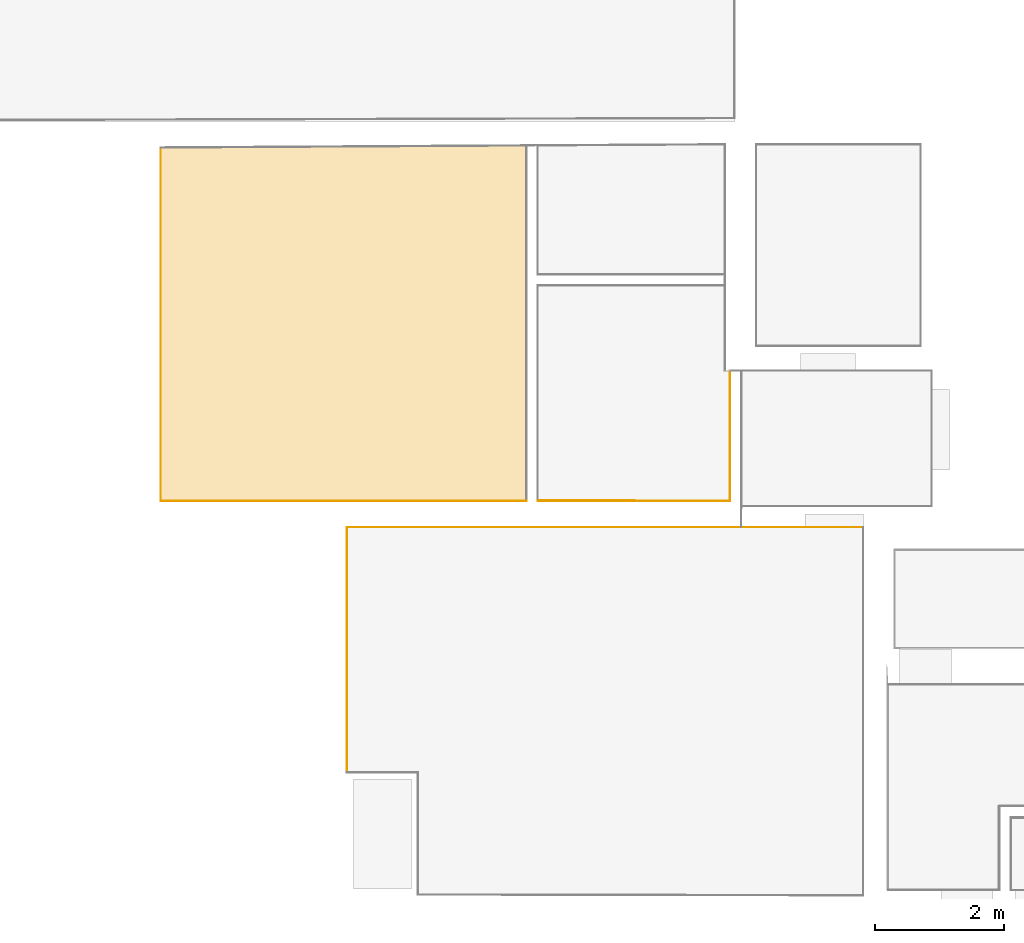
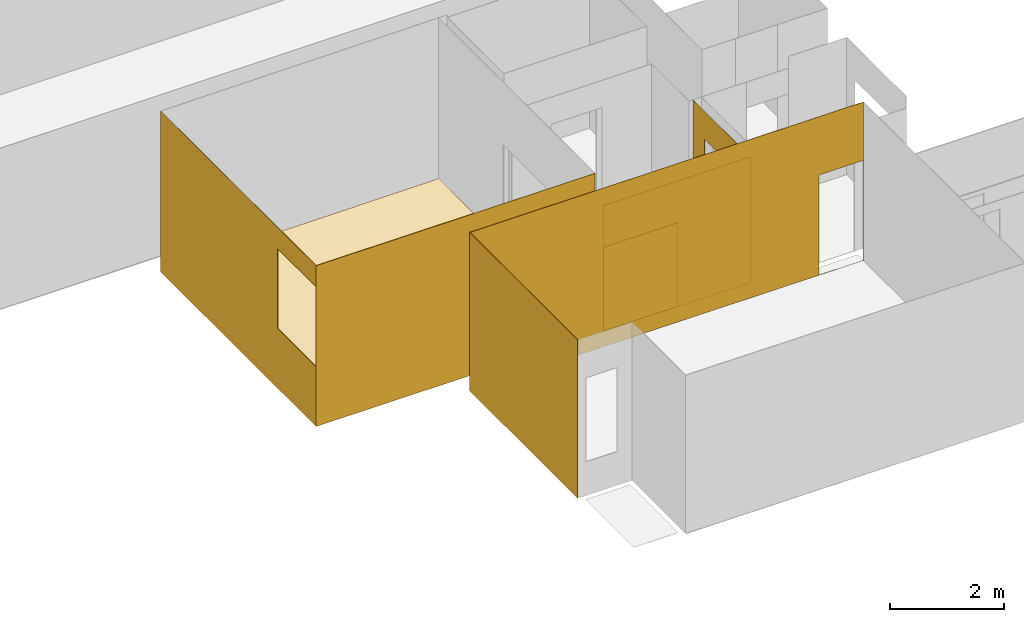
# One storey, part 12 of 33: 8 coverings, 3 openings.
"""IFC2X3 building model written with IfcOpenShell, lengths in millimetres."""

from ifc_helpers import new_model, entity, si_unit, converted_unit, derived_unit, money_unit, direction, frame, origin_with_axes, origin_2d_with_axis, place, context, subcontext, project, spatial, polyline, rectangle, outline, extrude, material, type_object, element, save


model = new_model("IFC2X3")

# Units and contexts
model_context = context("Model", 3, precision=0.01, world=origin_with_axes(), true_north=direction((0.0, 1.0)))
body_context = subcontext(model_context, "Body", "Model", "MODEL_VIEW")
ifc_project = project(units=[si_unit("LENGTHUNIT", "METRE", prefix="MILLI"), si_unit("AREAUNIT", "SQUARE_METRE"), si_unit("VOLUMEUNIT", "CUBIC_METRE"), converted_unit("PLANEANGLEUNIT", "DEGREE", entity("IfcPlaneAngleMeasure", 0.0174532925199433), si_unit("PLANEANGLEUNIT", "RADIAN"), dimensions=[0, 0, 0, 0, 0, 0, 0]), money_unit("EUR"), converted_unit("TIMEUNIT", "Year", entity("IfcTimeMeasure", 31556926.0), si_unit("TIMEUNIT", "SECOND"), dimensions=[0, 0, 1, 0, 0, 0, 0]), si_unit("MASSUNIT", "GRAM", prefix="KILO"), si_unit("THERMODYNAMICTEMPERATUREUNIT", "DEGREE_CELSIUS"), si_unit("LUMINOUSINTENSITYUNIT", "LUMEN"), si_unit("ENERGYUNIT", "JOULE", prefix="MEGA"), derived_unit("THERMALCONDUCTANCEUNIT", [(si_unit("POWERUNIT", "WATT"), 1), (si_unit("LENGTHUNIT", "METRE"), -1), (si_unit("THERMODYNAMICTEMPERATUREUNIT", "KELVIN"), -1)]), derived_unit("SPECIFICHEATCAPACITYUNIT", [(si_unit("ENERGYUNIT", "JOULE"), 1), (si_unit("MASSUNIT", "GRAM", prefix="KILO"), -1), (si_unit("THERMODYNAMICTEMPERATUREUNIT", "KELVIN"), -1)]), derived_unit("MASSDENSITYUNIT", [(si_unit("MASSUNIT", "GRAM", prefix="KILO"), 1), (si_unit("VOLUMEUNIT", "CUBIC_METRE"), -1)])], contexts=[model_context])

# Site, building, storey
site_placement = place(None, origin_with_axes())
site = spatial("IfcSite", under=ifc_project, at=site_placement, Name="Paldiski mnt 245/1, Tallinn, Harjumaa", CompositionType="COMPLEX")
building_placement = place(site_placement, origin_with_axes())
building = spatial("IfcBuilding", under=site, at=building_placement, Name="RKAS Hoone üldnimetus (kasutust iseloomustav) -> IFC Project Manager -> SOLIBRI", CompositionType="ELEMENT")
storey_placement = place(building_placement, origin_with_axes())
storey = spatial("IfcBuildingStorey", under=building, at=storey_placement, Name="Esimene korrus", CompositionType="ELEMENT", Elevation=0.0)

# Covering
ifc_material_1 = material(Name="SA- Laminaat SM2(kollane laminaat)")
covering_type_1 = type_object("IfcCoveringType", Name="SA- Laminaat SM2(kollane laminaat) 12", PredefinedType="CLADDING")
covering_1_placement = place(storey_placement, frame((-53439.99755085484, 6235.000000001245, 0.0), z_axis=(0.0, 0.0, 1.0), x_axis=(1.0, 0.0, 0.0)))
element("IfcCovering", 1, at=covering_1_placement, inside=storey, type_object=covering_type_1, material=ifc_material_1, Name="SM2", PredefinedType="CLADDING", context=body_context, shape_type="SweptSolid", body=[
    extrude(outline(polyline([(4.999999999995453, 0.0), (1505.000000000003, 0.0), (1505.000000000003, 11.99999999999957), (4.999999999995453, 12.00000000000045), (4.999999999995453, 0.0)])), origin_with_axes(), (0.0, 0.0, 1.0), 1800.0),
])

# Covering, opening
ifc_material_2 = material(Name="SA- Värv SM5(valge)")
covering_type_2 = type_object("IfcCoveringType", Name="SA- Värv SM5(valge) 5", PredefinedType="CLADDING")
covering_2_placement = place(storey_placement, frame((-59269.99999999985, 6230.000000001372, 0.0), z_axis=(0.0, 0.0, 1.0), x_axis=(0.0, 1.0, 0.0)))
covering_2 = element("IfcCovering", 2, at=covering_2_placement, inside=storey, type_object=covering_type_2, material=ifc_material_2, Name="SM5", PredefinedType="CLADDING", context=body_context, shape_type="SweptSolid", body=[
    extrude(outline(polyline([(0.0, -5.000000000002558), (5469.822383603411, -5.000000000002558), (5469.822383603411, 0.0), (0.0, 0.0), (0.0, -5.000000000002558)])), origin_with_axes(), (0.0, 0.0, 1.0), 3450.0),
])
opening_1_placement = place(covering_2_placement, frame((-6230.000000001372, -59269.99999999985, 0.0), z_axis=(0.0, 0.0, 1.0), x_axis=(0.0, -1.0, 0.0)))
element("IfcOpeningElement", 3, at=opening_1_placement, cuts=covering_2, Name="AVA", ObjectType="OPENING", context=body_context, shape_type="SweptSolid", body=[
    extrude(rectangle(XDim=1355.011381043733, YDim=1708.151337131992, at=origin_2d_with_axis()), frame((-59259.99999999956, 6912.505690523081, 2135.924331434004), z_axis=(1.0, 0.0, 0.0), x_axis=(0.0, 1.0, 0.0)), (0.0, 0.0, -1.0), 15.0000000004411),
])

# Covering
covering_3_placement = place(storey_placement, frame((-53439.99755085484, 6230.000000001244, 0.0), z_axis=(0.0, 0.0, 1.0), x_axis=(1.0, 0.0, 0.0)))
element("IfcCovering", 4, at=covering_3_placement, inside=storey, type_object=covering_type_2, material=ifc_material_2, Name="SM5", PredefinedType="CLADDING", context=body_context, shape_type="SweptSolid", body=[
    extrude(outline(polyline([(0.0, 0.0), (2979.997550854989, 0.0), (2979.997550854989, 4.999999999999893), (0.0, 4.999999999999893), (0.0, 0.0)])), origin_with_axes(), (0.0, 0.0, 1.0), 2700.0),
])

# Covering, opening
covering_4_placement = place(storey_placement, frame((-50459.99999999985, 6230.000000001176, 0.0), z_axis=(0.0, 0.0, 1.0), x_axis=(0.0, 1.0, 0.0)))
covering_4 = element("IfcCovering", 5, at=covering_4_placement, inside=storey, type_object=covering_type_2, material=ifc_material_2, Name="SM5", PredefinedType="CLADDING", context=body_context, shape_type="SweptSolid", body=[
    extrude(outline(polyline([(0.0, 0.0), (2019.999999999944, 0.0), (2019.999999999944, 5.000000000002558), (0.0, 5.000000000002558), (0.0, 0.0)])), origin_with_axes(), (0.0, 0.0, 1.0), 2700.0),
])
opening_2_placement = place(covering_4_placement, frame((-6230.000000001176, -50459.99999999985, 0.0), z_axis=(0.0, 0.0, 1.0), x_axis=(0.0, -1.0, 0.0)))
element("IfcOpeningElement", 6, at=opening_2_placement, cuts=covering_4, Name="AVA", ObjectType="OPENING", context=body_context, shape_type="SweptSolid", body=[
    extrude(rectangle(XDim=1250.000000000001, YDim=2100.0, at=origin_2d_with_axis()), frame((-50454.99999999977, 7209.828724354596, 1050.0), z_axis=(1.0, 0.0, 0.0), x_axis=(0.0, 1.0, 0.0)), (0.0, 0.0, -1.0), 15.00000000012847),
])

# Coverings
ifc_material_3 = material(Name="SA- Värv SM6(kollane)")
covering_type_3 = type_object("IfcCoveringType", Name="SA- Värv SM6(kollane) 5", PredefinedType="CLADDING")
covering_5_placement = place(storey_placement, frame((-53609.99755085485, 6230.000000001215, 0.0), z_axis=(0.0, 0.0, 1.0), x_axis=(-1.0, 0.0, 0.0)))
element("IfcCovering", 7, at=covering_5_placement, inside=storey, type_object=covering_type_3, material=ifc_material_3, Name="SM6", PredefinedType="CLADDING", context=body_context, shape_type="SweptSolid", body=[
    extrude(outline(polyline([(0.0, -4.999999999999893), (5660.002449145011, -4.999999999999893), (5660.002449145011, 0.0), (0.0, 0.0), (0.0, -4.999999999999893)])), origin_with_axes(), (0.0, 0.0, 1.0), 3450.0),
])
ifc_material_4 = material(Name="SA- PM-6 vinüül")
covering_type_4 = type_object("IfcCoveringType", Name="SA- PM-6 vinüül 3", PredefinedType="FLOORING")
covering_6_placement = place(storey_placement, frame((-59269.99999999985, 11699.82237585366, 0.0), z_axis=(0.0, 0.0, 1.0), x_axis=(1.0, 0.0, 0.0)))
element("IfcCovering", 8, at=covering_6_placement, inside=storey, type_object=covering_type_4, material=ifc_material_4, Name="PM-6", PredefinedType="FLOORING", context=body_context, shape_type="SweptSolid", body=[
    extrude(outline(polyline([(0.0, 0.0), (0.0, -1599.999974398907), (0.0, -5469.822375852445), (5660.00244914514, -5469.822375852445), (5660.00244914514, -2233.854159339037), (5660.00244914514, 31.86939455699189), (0.0, 0.0)])), origin_with_axes(), (0.0, 0.0, 1.0), 3.0),
])
ifc_material_5 = material(Name="SA- Värv SM12(tolmutõke)")
covering_type_5 = type_object("IfcCoveringType", Name="SA- Värv SM12(tolmutõke) 5", PredefinedType="CLADDING")
covering_7_placement = place(storey_placement, frame((-56389.99999999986, 5830.000000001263, 0.0), z_axis=(0.0, 0.0, 1.0), x_axis=(0.0, -1.0, 0.0)))
element("IfcCovering", 9, at=covering_7_placement, inside=storey, type_object=covering_type_5, material=ifc_material_5, Name="SM12", PredefinedType="CLADDING", context=body_context, shape_type="SweptSolid", body=[
    extrude(outline(polyline([(0.0, 0.0), (3800.000078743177, 0.0), (3800.000078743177, 5.000000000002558), (0.0, 5.000000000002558), (0.0, 0.0)])), origin_with_axes(), (0.0, 0.0, 1.0), 3400.0),
])

# Covering, opening
covering_8_placement = place(storey_placement, frame((-48399.99999999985, 5830.000000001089, 0.0), z_axis=(0.0, 0.0, 1.0), x_axis=(-1.0, 0.0, 0.0)))
covering_8 = element("IfcCovering", 10, at=covering_8_placement, inside=storey, type_object=covering_type_5, material=ifc_material_5, Name="SM12", PredefinedType="CLADDING", context=body_context, shape_type="SweptSolid", body=[
    extrude(outline(polyline([(0.0, 0.0), (7990.000000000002, 0.0), (7990.000000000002, 4.999999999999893), (5.000000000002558, 4.999999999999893), (0.0, 0.0)])), origin_with_axes(), (0.0, 0.0, 1.0), 3400.0),
])
opening_3_placement = place(covering_8_placement, frame((-48399.99999999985, 5830.000000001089, 0.0), z_axis=(0.0, 0.0, 1.0), x_axis=(-1.0, 0.0, 0.0)))
element("IfcOpeningElement", 11, at=opening_3_placement, cuts=covering_8, Name="AVA", ObjectType="OPENING", context=body_context, shape_type="SweptSolid", body=[
    extrude(rectangle(XDim=895.0000000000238, YDim=2147.0, at=origin_2d_with_axis()), frame((-48852.49999999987, 5835.000000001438, 1076.5), z_axis=(0.0, 1.0, 0.0), x_axis=(-1.0, 0.0, 0.0)), (0.0, 0.0, -1.0), 15.00000000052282),
])

save(model, "model.ifc")
